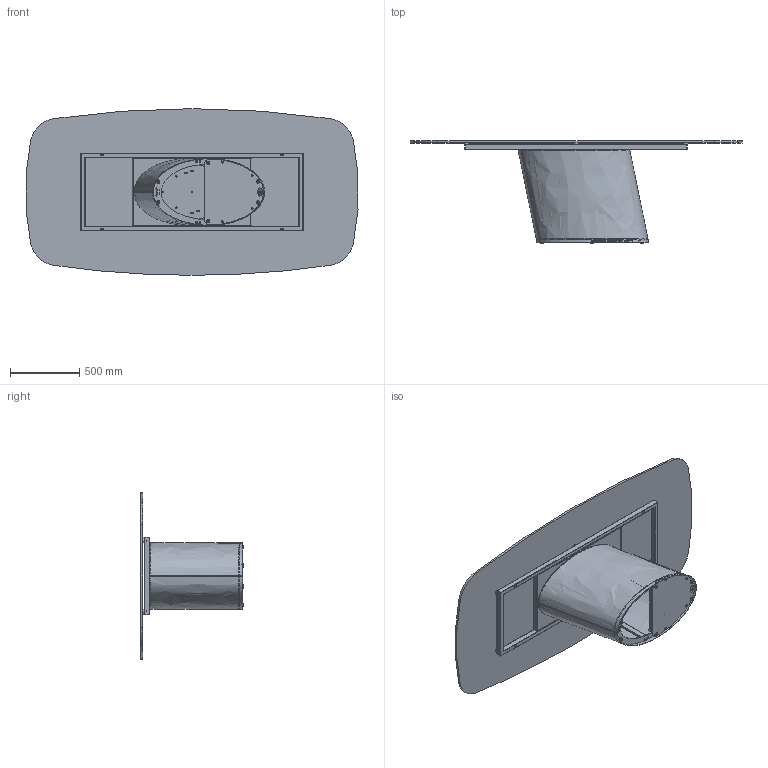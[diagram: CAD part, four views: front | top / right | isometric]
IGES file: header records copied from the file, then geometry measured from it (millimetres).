
Start section: SolidWorks IGES file using analytic representation for surfaces
Global section: file name: Y:\eforma\TECNICO\SOLIDWORKS\E-FORMA\1-TAVOLI\DORADO\02 parts\DO43G.IGS; native system: SolidWorks 2022; preprocessor: SolidWorks 2022; author: eforma.tech; date: 240806.151529; units: millimetre
Bounding box: 2391.62 x 737 x 1200 mm (x, y, z)
Volume: 51982242.6 mm3; surface area: 12669813.7 mm2
Topology: 57 solids, 57 shells, 1293 faces, 3079 edges, 1910 vertices
Faces by surface type: revolution 799, plane 468, bspline 26
